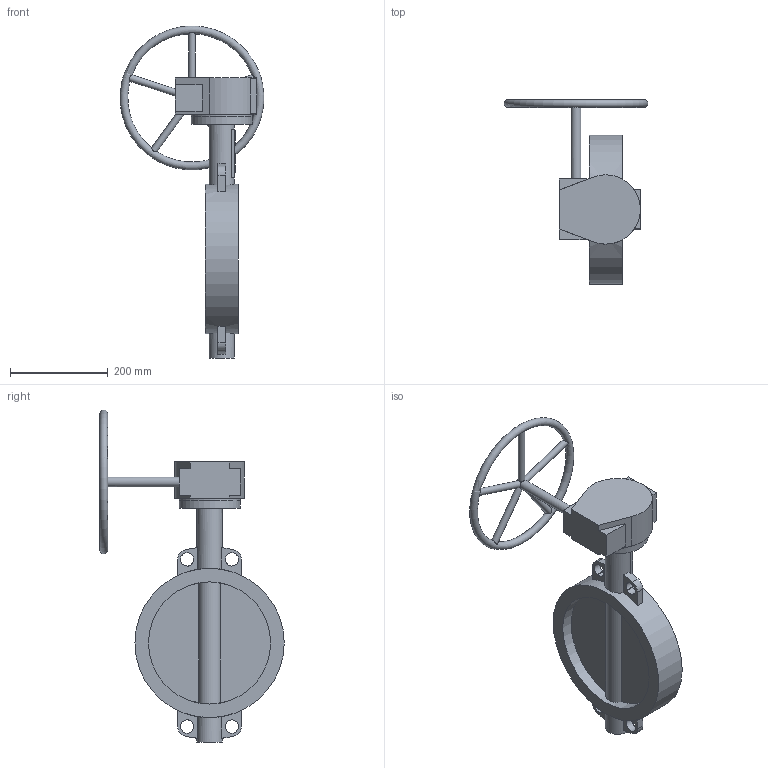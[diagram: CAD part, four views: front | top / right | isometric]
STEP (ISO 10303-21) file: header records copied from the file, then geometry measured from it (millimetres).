
FILE_DESCRIPTION(('STEP AP203'), '1');
FILE_NAME('Çàòâîð 017W.Z(÷óãóí) DN250 PN10_16 ðåäóêòîð', '', ('UNSPECIFIED'), ('UNSPECIFIED'), 'ASCON STEP Converter 1.6', 'ASCON Math Kernel', '');
FILE_SCHEMA(('CONFIG_CONTROL_DESIGN'));
Length unit declared in the file: millimetre
Bounding box: 294.62 x 378 x 680.49 mm (x, y, z)
Volume: 1845416 mm3; surface area: 502875.8 mm2
Topology: 1 solids, 4 shells, 826 faces, 2449 edges, 1578 vertices
Faces by surface type: cylinder 620, plane 205, torus 1
Full cylindrical faces by diameter (mm): 8.5 x4, 12 x4, 14 x5, 20 x2, 28.6 x1, 52 x2, 70 x1, 125 x2, 250.4 x2, 306 x1
Entity records: 37396 total; most frequent: CARTESIAN_POINT 7575, DIRECTION 5329, ORIENTED_EDGE 4770, EDGE_CURVE 2424, AXIS2_PLACEMENT_3D 2124, VERTEX_POINT 1577, CIRCLE 1298, LINE 1081
